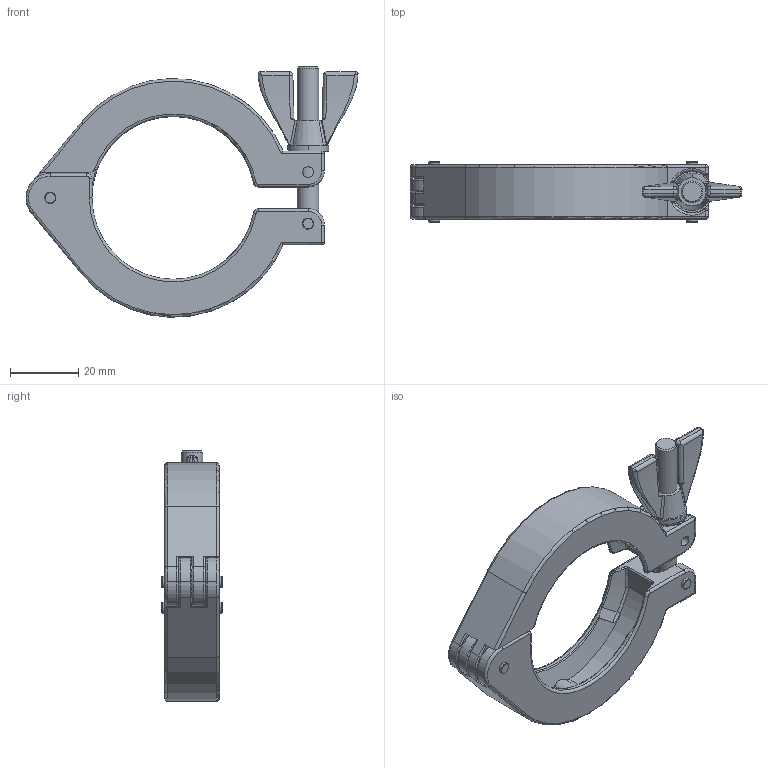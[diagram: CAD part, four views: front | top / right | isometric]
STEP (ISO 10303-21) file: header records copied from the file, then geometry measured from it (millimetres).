
FILE_DESCRIPTION(/* description */ ('Alibre Inc.'),/* implementation_level */ '2;1');
FILE_NAME(/* name */ 'export0',/* time_stamp */ '2015-02-18T12:45:28-08:00',/* author */ (''),/* organization */ (''),/* preprocessor_version */ 'ST-DEVELOPER v14',/* originating_system */ 'Alibre',/* authorisation */ '');
FILE_SCHEMA (('CONFIG_CONTROL_DESIGN'));
Length unit declared in the file: inch
Products named in the file (1): ID_1
Bounding box: 97.11 x 17.78 x 73.27 mm (x, y, z)
Volume: 27146.1 mm3; surface area: 16247.5 mm2
Topology: 1 solids, 1 shells, 407 faces, 1037 edges, 612 vertices
Faces by surface type: cylinder 119, bspline 91, plane 83, torus 76, cone 21, sphere 17
Full cylindrical faces by diameter (mm): 3.251 x6, 4.614 x2, 6.35 x2
Entity records: 63885 total; most frequent: CARTESIAN_POINT 55380, ORIENTED_EDGE 1974, DIRECTION 1358, EDGE_CURVE 987, AXIS2_PLACEMENT_3D 637, VERTEX_POINT 605, EDGE_LOOP 440, FACE_BOUND 440
